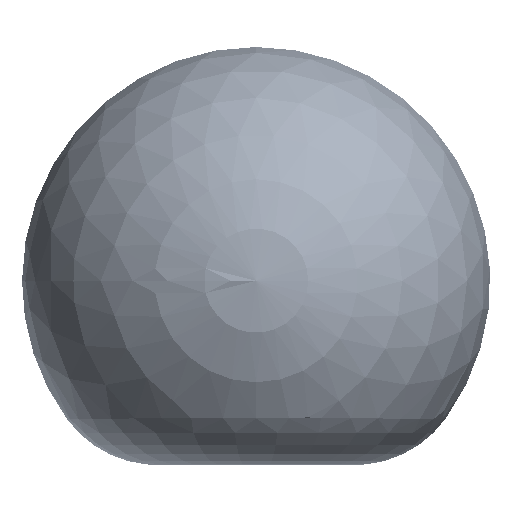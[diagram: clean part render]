
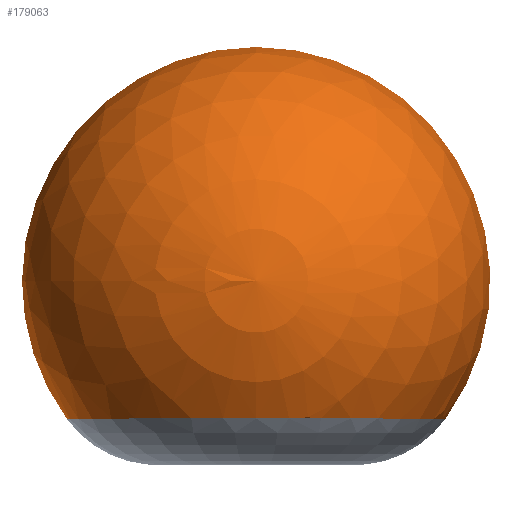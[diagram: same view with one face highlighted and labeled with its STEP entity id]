
A CAD part, top view. The second image highlights one B-rep face of the part: STEP entity #179063.
In plain terms, the highlighted spherical face has radius 827 mm.
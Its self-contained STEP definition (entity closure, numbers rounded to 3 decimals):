
#8819 = DIRECTION ( 'NONE',  ( 1., 0., 0. ) ) ;
#27627 = AXIS2_PLACEMENT_3D ( 'NONE', #143186, #108673, #337718 ) ;
#42180 = FACE_OUTER_BOUND ( 'NONE', #371358, .T. ) ;
#62661 = ORIENTED_EDGE ( 'NONE', *, *, #198261, .F. ) ;
#71892 = CARTESIAN_POINT ( 'NONE',  ( 0., 0., 0. ) ) ;
#75787 = CARTESIAN_POINT ( 'NONE',  ( 0., -486.098, 0. ) ) ;
#108673 = DIRECTION ( 'NONE',  ( 0., 0., -1. ) ) ;
#116976 = AXIS2_PLACEMENT_3D ( 'NONE', #71892, #411784, #298408 ) ;
#143186 = CARTESIAN_POINT ( 'NONE',  ( 0., 0., 0. ) ) ;
#148136 = ORIENTED_EDGE ( 'NONE', *, *, #419735, .T. ) ;
#154430 = CIRCLE ( 'NONE', #461478, 669.057 ) ;
#163932 = DIRECTION ( 'NONE',  ( 0., 0., 1. ) ) ;
#174414 = CIRCLE ( 'NONE', #378760, 827. ) ;
#179063 = ADVANCED_FACE ( 'NONE', ( #42180 ), #409382, .T. ) ;
#189060 = DIRECTION ( 'NONE',  ( -1., 0., 0. ) ) ;
#198261 = EDGE_CURVE ( 'NONE', #367805, #292751, #174414, .T. ) ;
#240008 = CIRCLE ( 'NONE', #27627, 827. ) ;
#264516 = ORIENTED_EDGE ( 'NONE', *, *, #401634, .T. ) ;
#269099 = CARTESIAN_POINT ( 'NONE',  ( 0., 827., 0. ) ) ;
#292751 = VERTEX_POINT ( 'NONE', #269099 ) ;
#298408 = DIRECTION ( 'NONE',  ( 1., 0., 0. ) ) ;
#337718 = DIRECTION ( 'NONE',  ( -1., 0., 0. ) ) ;
#367805 = VERTEX_POINT ( 'NONE', #384123 ) ;
#371358 = EDGE_LOOP ( 'NONE', ( #148136, #264516, #62661 ) ) ;
#376302 = DIRECTION ( 'NONE',  ( 0., 1., 0. ) ) ;
#378760 = AXIS2_PLACEMENT_3D ( 'NONE', #427509, #163932, #8819 ) ;
#384123 = CARTESIAN_POINT ( 'NONE',  ( 669.057, -486.098, 0. ) ) ;
#401634 = EDGE_CURVE ( 'NONE', #487183, #292751, #240008, .T. ) ;
#409382 = SPHERICAL_SURFACE ( 'NONE', #116976, 827. ) ;
#411784 = DIRECTION ( 'NONE',  ( 0., 0., -1. ) ) ;
#419735 = EDGE_CURVE ( 'NONE', #367805, #487183, #154430, .T. ) ;
#427443 = CARTESIAN_POINT ( 'NONE',  ( -669.057, -486.098, 0. ) ) ;
#427509 = CARTESIAN_POINT ( 'NONE',  ( 0., 0., 0. ) ) ;
#461478 = AXIS2_PLACEMENT_3D ( 'NONE', #75787, #376302, #189060 ) ;
#487183 = VERTEX_POINT ( 'NONE', #427443 ) ;
